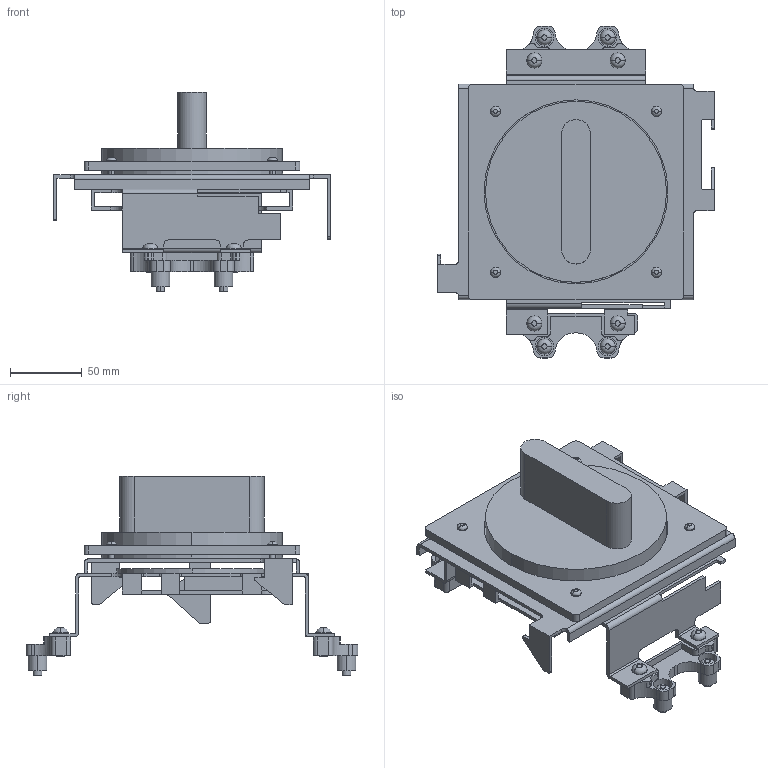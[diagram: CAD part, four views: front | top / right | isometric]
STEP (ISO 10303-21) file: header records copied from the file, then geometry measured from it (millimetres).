
FILE_DESCRIPTION( ( '' ), '1' );
FILE_NAME( 'E:/D&C電子外形図_3D/step/distribution/g-twin/breaker_accessory/handle/BW9N0HA.stp', '2012-10-19T07:46:10', ( '' ), ( '' ), ' ', ' ', ' ' );
FILE_SCHEMA( ( 'automotive_design' ) );
Length unit declared in the file: millimetre
Products named in the file (18): 1; 2; 3; 4; 5; 6; 7; 8; 9; 10; 11; 12; 13; 14; 15; 16; 17; 18
Bounding box: 192.6 x 231 x 138.71 mm (x, y, z)
Volume: 575468.4 mm3; surface area: 200592.1 mm2
Topology: 18 solids, 18 shells, 443 faces, 1171 edges, 784 vertices
Faces by surface type: cylinder 212, plane 207, torus 24
Entity records: 27777 total; most frequent: DIRECTION 2607, STYLED_ITEM 2416, PRESENTATION_STYLE_ASSIGNMENT 2416, CARTESIAN_POINT 2416, COLOUR_RGB 2416, ORIENTED_EDGE 2342, EDGE_CURVE 1171, CURVE_STYLE 1171
